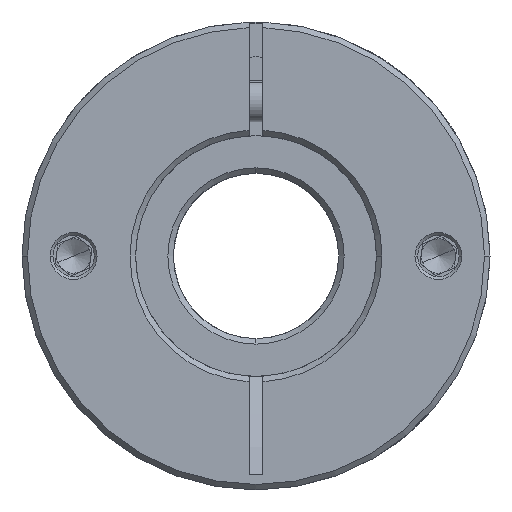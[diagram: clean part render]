
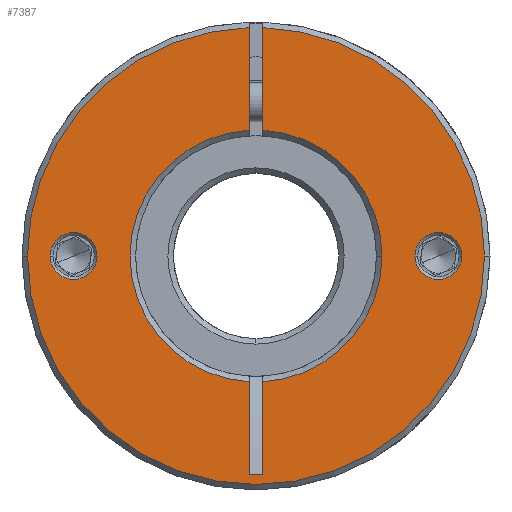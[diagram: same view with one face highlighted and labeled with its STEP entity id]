
A CAD part, front view. The second image highlights one B-rep face of the part: STEP entity #7387.
In plain terms, the highlighted planar face has unit normal (0, -1, 0).
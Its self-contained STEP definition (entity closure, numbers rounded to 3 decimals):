
#314 = DIRECTION ( 'NONE',  ( 1., 0., 0. ) ) ;
#580 = ORIENTED_EDGE ( 'NONE', *, *, #10344, .T. ) ;
#649 = EDGE_CURVE ( 'NONE', #6014, #13235, #12811, .T. ) ;
#693 = CIRCLE ( 'NONE', #10615, 33.2 ) ;
#754 = CARTESIAN_POINT ( 'NONE',  ( -3.735, -47.045, 68. ) ) ;
#892 = CARTESIAN_POINT ( 'NONE',  ( -1.735, -47.045, 36.279 ) ) ;
#899 = VECTOR ( 'NONE', #11690, 1000. ) ;
#941 = CARTESIAN_POINT ( 'NONE',  ( 20.365, -47.045, 68. ) ) ;
#1110 = CARTESIAN_POINT ( 'NONE',  ( -32.635, -47.045, 68. ) ) ;
#1119 = VERTEX_POINT ( 'NONE', #6223 ) ;
#1250 = VECTOR ( 'NONE', #6017, 1000. ) ;
#1475 = VERTEX_POINT ( 'NONE', #3781 ) ;
#1673 = DIRECTION ( 'NONE',  ( 1., 0., 0. ) ) ;
#1707 = ORIENTED_EDGE ( 'NONE', *, *, #12242, .T. ) ;
#2024 = AXIS2_PLACEMENT_3D ( 'NONE', #10501, #8591, #8548 ) ;
#2125 = LINE ( 'NONE', #10623, #5190 ) ;
#2178 = ORIENTED_EDGE ( 'NONE', *, *, #7384, .F. ) ;
#2295 = DIRECTION ( 'NONE',  ( 0., -1., 0. ) ) ;
#2467 = CARTESIAN_POINT ( 'NONE',  ( -1.735, -47.045, 49.727 ) ) ;
#2636 = LINE ( 'NONE', #3872, #6812 ) ;
#2844 = DIRECTION ( 'NONE',  ( 0., 0., -1. ) ) ;
#2937 = EDGE_CURVE ( 'NONE', #13235, #9516, #7107, .T. ) ;
#3179 = CARTESIAN_POINT ( 'NONE',  ( -29.235, -47.045, 68. ) ) ;
#3224 = DIRECTION ( 'NONE',  ( 1., 0., 0. ) ) ;
#3430 = DIRECTION ( 'NONE',  ( 0., 1., 0. ) ) ;
#3467 = EDGE_CURVE ( 'NONE', #8974, #10979, #12085, .T. ) ;
#3491 = ORIENTED_EDGE ( 'NONE', *, *, #3840, .F. ) ;
#3637 = VERTEX_POINT ( 'NONE', #6673 ) ;
#3680 = ORIENTED_EDGE ( 'NONE', *, *, #10812, .T. ) ;
#3740 = AXIS2_PLACEMENT_3D ( 'NONE', #11401, #2295, #6225 ) ;
#3755 = CARTESIAN_POINT ( 'NONE',  ( -25.835, -47.045, 68. ) ) ;
#3781 = CARTESIAN_POINT ( 'NONE',  ( -3.735, -47.045, 86.273 ) ) ;
#3816 = CIRCLE ( 'NONE', #12372, 18.3 ) ;
#3840 = EDGE_CURVE ( 'NONE', #10366, #9644, #10768, .T. ) ;
#3872 = CARTESIAN_POINT ( 'NONE',  ( -3.735, -47.045, 68. ) ) ;
#3960 = CIRCLE ( 'NONE', #11412, 3.4 ) ;
#3984 = DIRECTION ( 'NONE',  ( 0., 0., -1. ) ) ;
#4073 = CIRCLE ( 'NONE', #3740, 33.2 ) ;
#4093 = AXIS2_PLACEMENT_3D ( 'NONE', #3179, #9299, #3224 ) ;
#4392 = AXIS2_PLACEMENT_3D ( 'NONE', #8954, #12156, #1673 ) ;
#4857 = EDGE_CURVE ( 'NONE', #1119, #6014, #12055, .T. ) ;
#4922 = ORIENTED_EDGE ( 'NONE', *, *, #11625, .T. ) ;
#4945 = DIRECTION ( 'NONE',  ( 1., 0., 0. ) ) ;
#5023 = CARTESIAN_POINT ( 'NONE',  ( -35.935, -47.045, 68. ) ) ;
#5137 = VERTEX_POINT ( 'NONE', #5023 ) ;
#5167 = ORIENTED_EDGE ( 'NONE', *, *, #7415, .T. ) ;
#5190 = VECTOR ( 'NONE', #9785, 1000. ) ;
#5326 = EDGE_CURVE ( 'NONE', #10979, #8974, #10258, .T. ) ;
#5429 = ORIENTED_EDGE ( 'NONE', *, *, #3467, .T. ) ;
#5534 = CARTESIAN_POINT ( 'NONE',  ( -29.235, -47.045, 68. ) ) ;
#5661 = ORIENTED_EDGE ( 'NONE', *, *, #9643, .T. ) ;
#5836 = CARTESIAN_POINT ( 'NONE',  ( -2.735, -47.045, 68. ) ) ;
#5860 = DIRECTION ( 'NONE',  ( 1., 0., 0. ) ) ;
#6014 = VERTEX_POINT ( 'NONE', #11002 ) ;
#6016 = CIRCLE ( 'NONE', #2024, 3.4 ) ;
#6017 = DIRECTION ( 'NONE',  ( -1., 0., 0. ) ) ;
#6223 = CARTESIAN_POINT ( 'NONE',  ( -1.735, -47.045, 101.185 ) ) ;
#6225 = DIRECTION ( 'NONE',  ( 1., 0., 0. ) ) ;
#6537 = CARTESIAN_POINT ( 'NONE',  ( 23.765, -47.045, 68. ) ) ;
#6551 = ORIENTED_EDGE ( 'NONE', *, *, #4857, .T. ) ;
#6602 = AXIS2_PLACEMENT_3D ( 'NONE', #13177, #8139, #9150 ) ;
#6665 = FACE_OUTER_BOUND ( 'NONE', #11835, .T. ) ;
#6673 = CARTESIAN_POINT ( 'NONE',  ( 27.165, -47.045, 68. ) ) ;
#6727 = LINE ( 'NONE', #9209, #1250 ) ;
#6792 = AXIS2_PLACEMENT_3D ( 'NONE', #5534, #11611, #10645 ) ;
#6812 = VECTOR ( 'NONE', #2844, 1000. ) ;
#6871 = ORIENTED_EDGE ( 'NONE', *, *, #2937, .T. ) ;
#7037 = VERTEX_POINT ( 'NONE', #11261 ) ;
#7107 = CIRCLE ( 'NONE', #6602, 18.3 ) ;
#7316 = CIRCLE ( 'NONE', #9220, 33.2 ) ;
#7384 = EDGE_CURVE ( 'NONE', #10901, #1475, #2636, .T. ) ;
#7387 = ADVANCED_FACE ( 'NONE', ( #12941, #7465, #6665 ), #12071, .T. ) ;
#7415 = EDGE_CURVE ( 'NONE', #10901, #5137, #7316, .T. ) ;
#7465 = FACE_BOUND ( 'NONE', #8784, .T. ) ;
#7634 = ORIENTED_EDGE ( 'NONE', *, *, #649, .T. ) ;
#8001 = DIRECTION ( 'NONE',  ( 0., -1., 0. ) ) ;
#8026 = DIRECTION ( 'NONE',  ( 0., 1., 0. ) ) ;
#8139 = DIRECTION ( 'NONE',  ( 0., 1., 0. ) ) ;
#8296 = EDGE_CURVE ( 'NONE', #9516, #8420, #2125, .T. ) ;
#8391 = AXIS2_PLACEMENT_3D ( 'NONE', #13111, #8026, #4945 ) ;
#8420 = VERTEX_POINT ( 'NONE', #892 ) ;
#8548 = DIRECTION ( 'NONE',  ( 1., 0., 0. ) ) ;
#8591 = DIRECTION ( 'NONE',  ( 0., 1., 0. ) ) ;
#8701 = VECTOR ( 'NONE', #3984, 1000. ) ;
#8784 = EDGE_LOOP ( 'NONE', ( #5429, #12564 ) ) ;
#8876 = CARTESIAN_POINT ( 'NONE',  ( -2.735, -47.045, 68. ) ) ;
#8954 = CARTESIAN_POINT ( 'NONE',  ( -2.735, -47.045, 68. ) ) ;
#8971 = CARTESIAN_POINT ( 'NONE',  ( 15.565, -47.045, 68. ) ) ;
#8974 = VERTEX_POINT ( 'NONE', #3755 ) ;
#9069 = EDGE_CURVE ( 'NONE', #8420, #9644, #6727, .T. ) ;
#9150 = DIRECTION ( 'NONE',  ( 1., 0., 0. ) ) ;
#9209 = CARTESIAN_POINT ( 'NONE',  ( -3.735, -47.045, 36.279 ) ) ;
#9220 = AXIS2_PLACEMENT_3D ( 'NONE', #8876, #8001, #5860 ) ;
#9299 = DIRECTION ( 'NONE',  ( 0., 1., 0. ) ) ;
#9516 = VERTEX_POINT ( 'NONE', #2467 ) ;
#9643 = EDGE_CURVE ( 'NONE', #10366, #1475, #3816, .T. ) ;
#9644 = VERTEX_POINT ( 'NONE', #9798 ) ;
#9688 = ORIENTED_EDGE ( 'NONE', *, *, #8296, .T. ) ;
#9703 = CARTESIAN_POINT ( 'NONE',  ( -1.735, -47.045, 68. ) ) ;
#9785 = DIRECTION ( 'NONE',  ( 0., 0., -1. ) ) ;
#9798 = CARTESIAN_POINT ( 'NONE',  ( -3.735, -47.045, 36.279 ) ) ;
#9838 = DIRECTION ( 'NONE',  ( 0., 1., 0. ) ) ;
#10046 = CARTESIAN_POINT ( 'NONE',  ( -3.735, -47.045, 101.185 ) ) ;
#10258 = CIRCLE ( 'NONE', #6792, 3.4 ) ;
#10344 = EDGE_CURVE ( 'NONE', #3637, #13164, #3960, .T. ) ;
#10366 = VERTEX_POINT ( 'NONE', #11483 ) ;
#10501 = CARTESIAN_POINT ( 'NONE',  ( 23.765, -47.045, 68. ) ) ;
#10615 = AXIS2_PLACEMENT_3D ( 'NONE', #11867, #10991, #12936 ) ;
#10623 = CARTESIAN_POINT ( 'NONE',  ( -1.735, -47.045, 68. ) ) ;
#10645 = DIRECTION ( 'NONE',  ( 1., 0., 0. ) ) ;
#10768 = LINE ( 'NONE', #754, #8701 ) ;
#10812 = EDGE_CURVE ( 'NONE', #7037, #1119, #693, .T. ) ;
#10901 = VERTEX_POINT ( 'NONE', #10046 ) ;
#10963 = ORIENTED_EDGE ( 'NONE', *, *, #9069, .T. ) ;
#10979 = VERTEX_POINT ( 'NONE', #1110 ) ;
#10991 = DIRECTION ( 'NONE',  ( 0., -1., 0. ) ) ;
#11002 = CARTESIAN_POINT ( 'NONE',  ( -1.735, -47.045, 86.273 ) ) ;
#11261 = CARTESIAN_POINT ( 'NONE',  ( 30.465, -47.045, 68. ) ) ;
#11401 = CARTESIAN_POINT ( 'NONE',  ( -2.735, -47.045, 68. ) ) ;
#11412 = AXIS2_PLACEMENT_3D ( 'NONE', #6537, #3430, #314 ) ;
#11483 = CARTESIAN_POINT ( 'NONE',  ( -3.735, -47.045, 49.727 ) ) ;
#11611 = DIRECTION ( 'NONE',  ( 0., 1., 0. ) ) ;
#11625 = EDGE_CURVE ( 'NONE', #13164, #3637, #6016, .T. ) ;
#11690 = DIRECTION ( 'NONE',  ( 0., 0., -1. ) ) ;
#11740 = EDGE_LOOP ( 'NONE', ( #580, #4922 ) ) ;
#11835 = EDGE_LOOP ( 'NONE', ( #2178, #5167, #1707, #3680, #6551, #7634, #6871, #9688, #10963, #3491, #5661 ) ) ;
#11867 = CARTESIAN_POINT ( 'NONE',  ( -2.735, -47.045, 68. ) ) ;
#12055 = LINE ( 'NONE', #9703, #899 ) ;
#12071 = PLANE ( 'NONE',  #4392 ) ;
#12085 = CIRCLE ( 'NONE', #4093, 3.4 ) ;
#12156 = DIRECTION ( 'NONE',  ( 0., -1., 0. ) ) ;
#12242 = EDGE_CURVE ( 'NONE', #5137, #7037, #4073, .T. ) ;
#12372 = AXIS2_PLACEMENT_3D ( 'NONE', #5836, #9838, #12871 ) ;
#12564 = ORIENTED_EDGE ( 'NONE', *, *, #5326, .T. ) ;
#12811 = CIRCLE ( 'NONE', #8391, 18.3 ) ;
#12871 = DIRECTION ( 'NONE',  ( 1., 0., 0. ) ) ;
#12936 = DIRECTION ( 'NONE',  ( 1., 0., 0. ) ) ;
#12941 = FACE_BOUND ( 'NONE', #11740, .T. ) ;
#13111 = CARTESIAN_POINT ( 'NONE',  ( -2.735, -47.045, 68. ) ) ;
#13164 = VERTEX_POINT ( 'NONE', #941 ) ;
#13177 = CARTESIAN_POINT ( 'NONE',  ( -2.735, -47.045, 68. ) ) ;
#13235 = VERTEX_POINT ( 'NONE', #8971 ) ;
